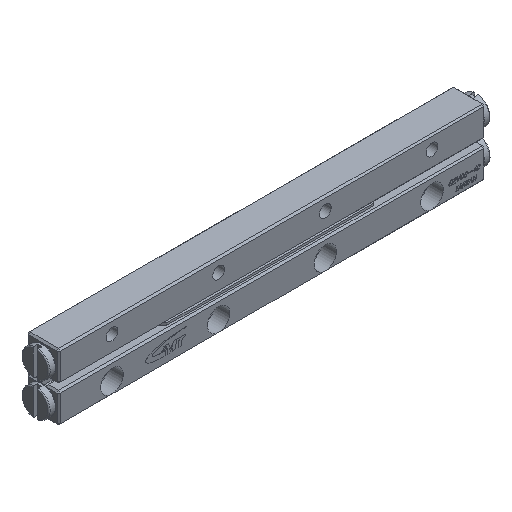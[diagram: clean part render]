
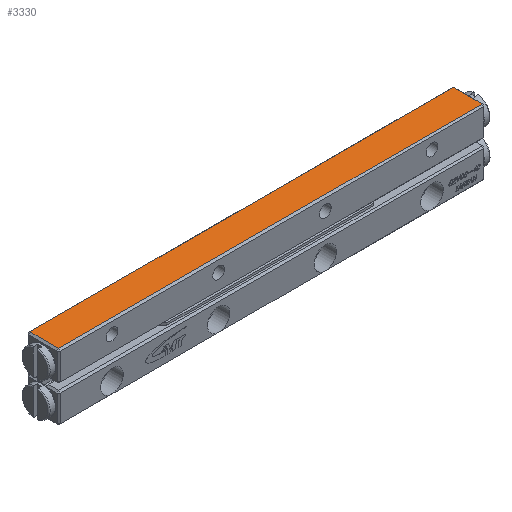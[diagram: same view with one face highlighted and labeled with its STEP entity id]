
A CAD part, isometric view. The second image highlights one B-rep face of the part: STEP entity #3330.
In plain terms, the highlighted planar face has unit normal (0, 0, 1).
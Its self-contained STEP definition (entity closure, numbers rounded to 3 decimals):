
#76 = VERTEX_POINT ( 'NONE', #14934 ) ;
#2267 = CARTESIAN_POINT ( 'NONE',  ( 20., -1.35, 0. ) ) ;
#3330 = ADVANCED_FACE ( 'NONE', ( #7110 ), #5378, .T. ) ;
#3380 = ORIENTED_EDGE ( 'NONE', *, *, #13893, .T. ) ;
#4656 = DIRECTION ( 'NONE',  ( 0., -1., 0. ) ) ;
#4777 = VERTEX_POINT ( 'NONE', #17467 ) ;
#5378 = PLANE ( 'NONE',  #22751 ) ;
#6783 = CARTESIAN_POINT ( 'NONE',  ( 20., 1.35, 0. ) ) ;
#7110 = FACE_OUTER_BOUND ( 'NONE', #21475, .T. ) ;
#8094 = CARTESIAN_POINT ( 'NONE',  ( 19.85, -1.35, 0. ) ) ;
#9052 = VECTOR ( 'NONE', #22630, 1000. ) ;
#9203 = EDGE_CURVE ( 'NONE', #12941, #4777, #18507, .T. ) ;
#9278 = CARTESIAN_POINT ( 'NONE',  ( 19.85, 1.5, 0. ) ) ;
#10898 = EDGE_CURVE ( 'NONE', #4777, #18640, #11328, .T. ) ;
#11021 = ORIENTED_EDGE ( 'NONE', *, *, #19602, .T. ) ;
#11264 = LINE ( 'NONE', #9278, #11382 ) ;
#11328 = LINE ( 'NONE', #2267, #14549 ) ;
#11382 = VECTOR ( 'NONE', #16613, 1000. ) ;
#11985 = VECTOR ( 'NONE', #4656, 1000. ) ;
#12941 = VERTEX_POINT ( 'NONE', #17560 ) ;
#13893 = EDGE_CURVE ( 'NONE', #76, #12941, #15762, .T. ) ;
#14461 = CARTESIAN_POINT ( 'NONE',  ( 20., -1.5, 0. ) ) ;
#14549 = VECTOR ( 'NONE', #21806, 1000. ) ;
#14934 = CARTESIAN_POINT ( 'NONE',  ( 19.85, 1.35, 0. ) ) ;
#15762 = LINE ( 'NONE', #6783, #9052 ) ;
#16613 = DIRECTION ( 'NONE',  ( 0., 1., 0. ) ) ;
#17003 = ORIENTED_EDGE ( 'NONE', *, *, #9203, .T. ) ;
#17467 = CARTESIAN_POINT ( 'NONE',  ( -19.85, -1.35, 0. ) ) ;
#17493 = DIRECTION ( 'NONE',  ( 0., 0., 1. ) ) ;
#17560 = CARTESIAN_POINT ( 'NONE',  ( -19.85, 1.35, 0. ) ) ;
#18507 = LINE ( 'NONE', #20607, #11985 ) ;
#18640 = VERTEX_POINT ( 'NONE', #8094 ) ;
#19602 = EDGE_CURVE ( 'NONE', #18640, #76, #11264, .T. ) ;
#20607 = CARTESIAN_POINT ( 'NONE',  ( -19.85, -1.5, 0. ) ) ;
#21216 = DIRECTION ( 'NONE',  ( 1., 0., 0. ) ) ;
#21475 = EDGE_LOOP ( 'NONE', ( #22425, #11021, #3380, #17003 ) ) ;
#21806 = DIRECTION ( 'NONE',  ( 1., 0., 0. ) ) ;
#22425 = ORIENTED_EDGE ( 'NONE', *, *, #10898, .T. ) ;
#22630 = DIRECTION ( 'NONE',  ( -1., 0., 0. ) ) ;
#22751 = AXIS2_PLACEMENT_3D ( 'NONE', #14461, #17493, #21216 ) ;
